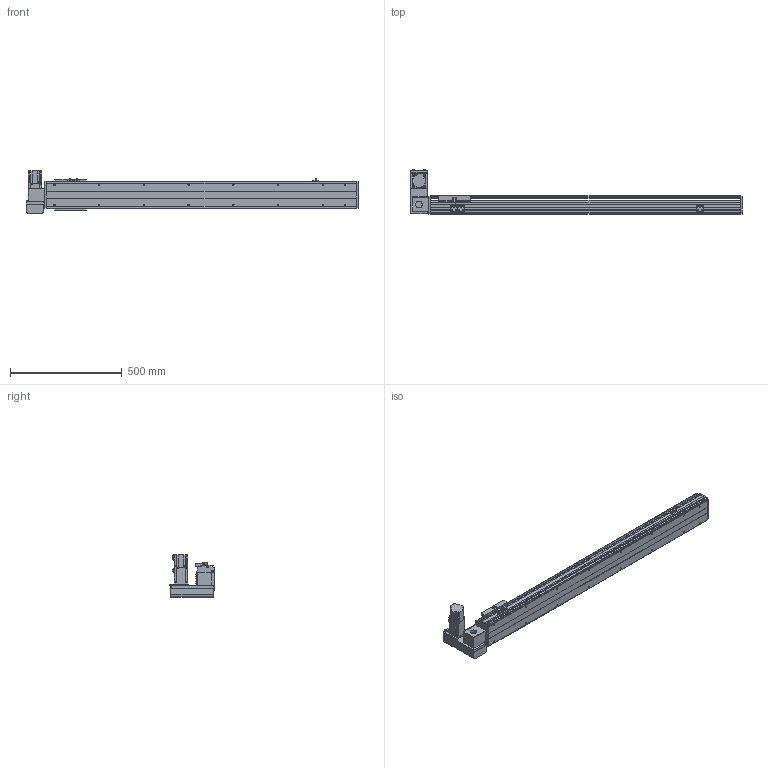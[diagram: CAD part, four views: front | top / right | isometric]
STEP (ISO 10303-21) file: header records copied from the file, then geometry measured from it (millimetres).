
FILE_DESCRIPTION(/* description */ ('STEP AP214'),/* implementation_level */ '2;1');
FILE_NAME(/* name */ 'PBS120-P40-S1100-LU-T40-C1-N(0)',/* time_stamp */ '2022-06-06T02:31:42+02:00',/* author */ ('License CC BY-ND 4.0'),/* organization */ ('CADENAS'),/* preprocessor_version */ 'ST-DEVELOPER v18.102',/* originating_system */ 'PARTsolutions',/* authorisation */ ' ');
FILE_SCHEMA (('AUTOMOTIVE_DESIGN {1 0 10303 214 3 1 1}'));
Length unit declared in the file: millimetre
Products named in the file (7): PBS120-P40-S1100-LU-T40-C1-N(0); PBS120_sensor; PBS120_plant; PBS120_sliser; T40-p1; PBS120T-LU_motors; PBS120-S1100()_body
Assembly tree (8 placements, depth 2):
  PBS120-P40-S1100-LU-T40-C1-N(0)
    PBS120_sensor  x3
    PBS120_plant
    PBS120_sliser
    T40-p1
    PBS120T-LU_motors
    PBS120-S1100()_body
Bounding box: 1486 x 198 x 189.7 mm (x, y, z)
Volume: 6286685.6 mm3; surface area: 1235637.1 mm2
Topology: 8 solids, 8 shells, 828 faces, 2156 edges, 1387 vertices
Faces by surface type: plane 549, cylinder 229, cone 48, torus 2
Full cylindrical faces by diameter (mm): 2.459 x6, 3.242 x4, 4 x2, 4.134 x4, 4.5 x10, 4.917 x20, 5.5 x11, 6 x2, 6.6 x1, 7 x2, 8.5 x4, 9 x4, 12 x1, 14 x1, 30 x2, 40 x1, 50 x2
Entity records: 21594 total; most frequent: DIRECTION 3740, CARTESIAN_POINT 3677, ORIENTED_EDGE 3502, EDGE_CURVE 1751, AXIS2_PLACEMENT_3D 1256, LINE 1228, VECTOR 1228, VERTEX_POINT 1193
